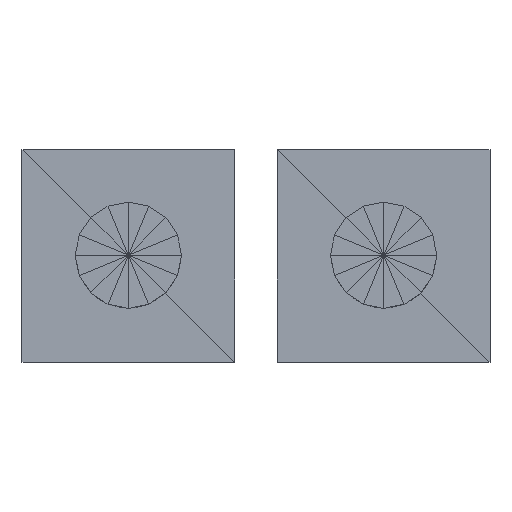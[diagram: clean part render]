
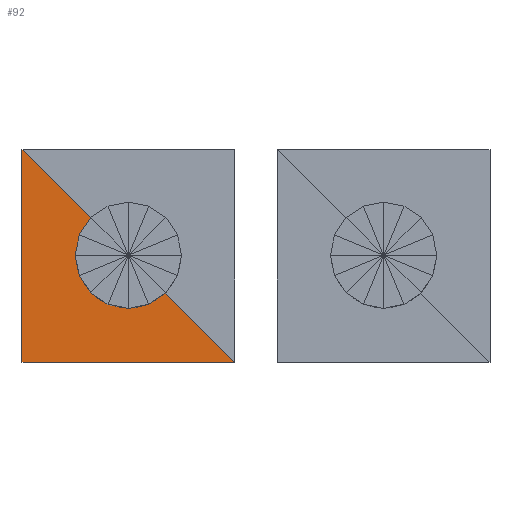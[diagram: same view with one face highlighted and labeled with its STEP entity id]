
A CAD part, top view. The second image highlights one B-rep face of the part: STEP entity #92.
In plain terms, the highlighted planar face has unit normal (0, 0, 1).
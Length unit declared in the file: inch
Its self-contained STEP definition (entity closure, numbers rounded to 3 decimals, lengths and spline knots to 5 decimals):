
#61=CARTESIAN_POINT('',(-0.22,0.09999,0.10002));
#62=DIRECTION('',(0.,0.,1.));
#63=DIRECTION('',(1.,0.,0.));
#64=AXIS2_PLACEMENT_3D('',#61,#62,#63);
#65=PLANE('',#64);
#66=CARTESIAN_POINT('',(-0.22,-0.10001,0.09998));
#67=VERTEX_POINT('',#66);
#68=CARTESIAN_POINT('',(-0.22,0.09999,0.10002));
#69=VERTEX_POINT('',#68);
#70=CARTESIAN_POINT('',(-0.22,-0.10001,0.09998));
#71=DIRECTION('',(0.,1.,0.));
#72=VECTOR('',#71,0.2);
#73=LINE('',#70,#72);
#74=EDGE_CURVE('',#67,#69,#73,.T.);
#75=ORIENTED_EDGE('',*,*,#74,.F.);
#76=CARTESIAN_POINT('',(-0.02,-0.10001,0.09998));
#77=VERTEX_POINT('',#76);
#78=CARTESIAN_POINT('',(-0.22,-0.10001,0.09998));
#79=DIRECTION('',(1.,0.,-0.));
#80=VECTOR('',#79,0.2);
#81=LINE('',#78,#80);
#82=EDGE_CURVE('',#67,#77,#81,.T.);
#83=ORIENTED_EDGE('',*,*,#82,.T.);
#84=CARTESIAN_POINT('',(-0.02,-0.10001,0.09998));
#85=DIRECTION('',(-0.707,0.707,0.));
#86=VECTOR('',#85,0.28284);
#87=LINE('',#84,#86);
#88=EDGE_CURVE('',#77,#69,#87,.T.);
#89=ORIENTED_EDGE('',*,*,#88,.T.);
#90=EDGE_LOOP('',(#75,#83,#89));
#91=FACE_BOUND('',#90,.T.);
#92=ADVANCED_FACE('',(#91),#65,.T.);
